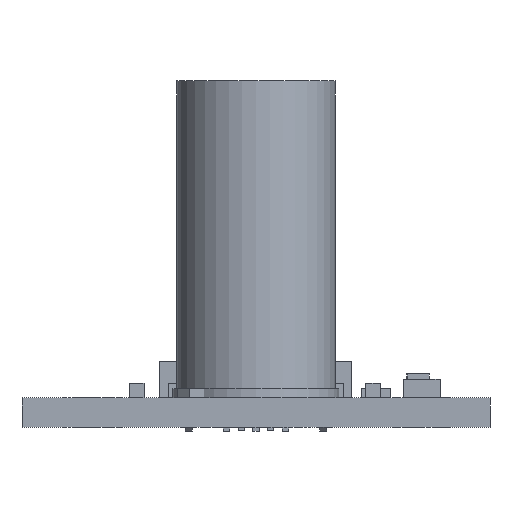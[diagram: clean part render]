
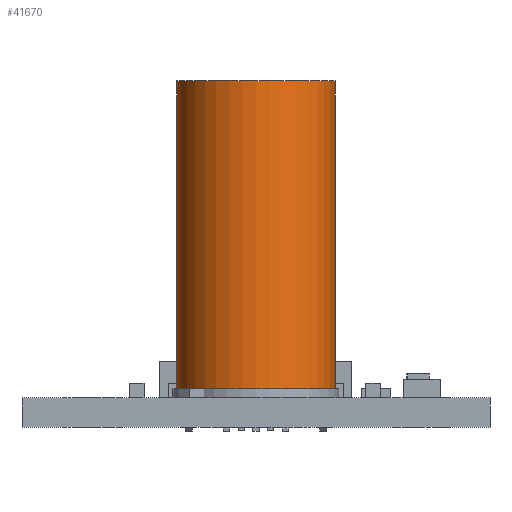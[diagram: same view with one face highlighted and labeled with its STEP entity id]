
A CAD part, front view. The second image highlights one B-rep face of the part: STEP entity #41670.
In plain terms, the highlighted cylindrical face has radius 4.3 mm (diameter 8.6 mm), a full revolution.
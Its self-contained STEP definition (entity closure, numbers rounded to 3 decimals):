
#41670 = ADVANCED_FACE('',(#41671),#41685,.T.);
#41671 = FACE_BOUND('',#41672,.T.);
#41672 = EDGE_LOOP('',(#41673,#41703,#41733,#41734));
#41673 = ORIENTED_EDGE('',*,*,#41674,.F.);
#41674 = EDGE_CURVE('',#41675,#41677,#41679,.T.);
#41675 = VERTEX_POINT('',#41676);
#41676 = CARTESIAN_POINT('',(4.3,0.,0.));
#41677 = VERTEX_POINT('',#41678);
#41678 = CARTESIAN_POINT('',(4.3,0.,17.2));
#41679 = SEAM_CURVE('',#41680,(#41684,#41696),.PCURVE_S1.);
#41680 = LINE('',#41681,#41682);
#41681 = CARTESIAN_POINT('',(4.3,0.,0.));
#41682 = VECTOR('',#41683,1.);
#41683 = DIRECTION('',(0.,0.,1.));
#41684 = PCURVE('',#41685,#41690);
#41685 = CYLINDRICAL_SURFACE('',#41686,4.3);
#41686 = AXIS2_PLACEMENT_3D('',#41687,#41688,#41689);
#41687 = CARTESIAN_POINT('',(0.,0.,0.));
#41688 = DIRECTION('',(0.,0.,-1.));
#41689 = DIRECTION('',(1.,0.,0.));
#41690 = DEFINITIONAL_REPRESENTATION('',(#41691),#41695);
#41691 = LINE('',#41692,#41693);
#41692 = CARTESIAN_POINT('',(6.283,0.));
#41693 = VECTOR('',#41694,1.);
#41694 = DIRECTION('',(0.,-1.));
#41695 = ( GEOMETRIC_REPRESENTATION_CONTEXT(2) 
PARAMETRIC_REPRESENTATION_CONTEXT() REPRESENTATION_CONTEXT('2D SPACE',''
  ) );
#41696 = PCURVE('',#41685,#41697);
#41697 = DEFINITIONAL_REPRESENTATION('',(#41698),#41702);
#41698 = LINE('',#41699,#41700);
#41699 = CARTESIAN_POINT('',(0.,0.));
#41700 = VECTOR('',#41701,1.);
#41701 = DIRECTION('',(0.,-1.));
#41702 = ( GEOMETRIC_REPRESENTATION_CONTEXT(2) 
PARAMETRIC_REPRESENTATION_CONTEXT() REPRESENTATION_CONTEXT('2D SPACE',''
  ) );
#41703 = ORIENTED_EDGE('',*,*,#41704,.T.);
#41704 = EDGE_CURVE('',#41675,#41675,#41705,.T.);
#41705 = SURFACE_CURVE('',#41706,(#41711,#41717),.PCURVE_S1.);
#41706 = CIRCLE('',#41707,4.3);
#41707 = AXIS2_PLACEMENT_3D('',#41708,#41709,#41710);
#41708 = CARTESIAN_POINT('',(0.,0.,0.));
#41709 = DIRECTION('',(0.,0.,1.));
#41710 = DIRECTION('',(1.,0.,0.));
#41711 = PCURVE('',#41685,#41712);
#41712 = DEFINITIONAL_REPRESENTATION('',(#41713),#41716);
#41713 = B_SPLINE_CURVE_WITH_KNOTS('',1,(#41714,#41715),.UNSPECIFIED.,
  .F.,.F.,(2,2),(0.,6.283),.PIECEWISE_BEZIER_KNOTS.);
#41714 = CARTESIAN_POINT('',(6.283,0.));
#41715 = CARTESIAN_POINT('',(0.,0.));
#41716 = ( GEOMETRIC_REPRESENTATION_CONTEXT(2) 
PARAMETRIC_REPRESENTATION_CONTEXT() REPRESENTATION_CONTEXT('2D SPACE',''
  ) );
#41717 = PCURVE('',#41718,#41723);
#41718 = PLANE('',#41719);
#41719 = AXIS2_PLACEMENT_3D('',#41720,#41721,#41722);
#41720 = CARTESIAN_POINT('',(4.3,0.,0.));
#41721 = DIRECTION('',(0.,0.,-1.));
#41722 = DIRECTION('',(-1.,0.,0.));
#41723 = DEFINITIONAL_REPRESENTATION('',(#41724),#41732);
#41724 = ( BOUNDED_CURVE() B_SPLINE_CURVE(2,(#41725,#41726,#41727,#41728
    ,#41729,#41730,#41731),.UNSPECIFIED.,.F.,.F.) 
B_SPLINE_CURVE_WITH_KNOTS((1,2,2,2,2,1),(-2.094,0.,
    2.094,4.189,6.283,8.378),
.UNSPECIFIED.) CURVE() GEOMETRIC_REPRESENTATION_ITEM() 
RATIONAL_B_SPLINE_CURVE((1.,0.5,1.,0.5,1.,0.5,1.)) REPRESENTATION_ITEM(
  '') );
#41725 = CARTESIAN_POINT('',(0.,0.));
#41726 = CARTESIAN_POINT('',(0.,7.448));
#41727 = CARTESIAN_POINT('',(6.45,3.724));
#41728 = CARTESIAN_POINT('',(12.9,0.));
#41729 = CARTESIAN_POINT('',(6.45,-3.724));
#41730 = CARTESIAN_POINT('',(0.,-7.448));
#41731 = CARTESIAN_POINT('',(0.,0.));
#41732 = ( GEOMETRIC_REPRESENTATION_CONTEXT(2) 
PARAMETRIC_REPRESENTATION_CONTEXT() REPRESENTATION_CONTEXT('2D SPACE',''
  ) );
#41733 = ORIENTED_EDGE('',*,*,#41674,.T.);
#41734 = ORIENTED_EDGE('',*,*,#41735,.F.);
#41735 = EDGE_CURVE('',#41677,#41677,#41736,.T.);
#41736 = SURFACE_CURVE('',#41737,(#41742,#41748),.PCURVE_S1.);
#41737 = CIRCLE('',#41738,4.3);
#41738 = AXIS2_PLACEMENT_3D('',#41739,#41740,#41741);
#41739 = CARTESIAN_POINT('',(0.,0.,17.2));
#41740 = DIRECTION('',(0.,0.,1.));
#41741 = DIRECTION('',(1.,0.,0.));
#41742 = PCURVE('',#41685,#41743);
#41743 = DEFINITIONAL_REPRESENTATION('',(#41744),#41747);
#41744 = B_SPLINE_CURVE_WITH_KNOTS('',1,(#41745,#41746),.UNSPECIFIED.,
  .F.,.F.,(2,2),(0.,6.283),.PIECEWISE_BEZIER_KNOTS.);
#41745 = CARTESIAN_POINT('',(6.283,-17.2));
#41746 = CARTESIAN_POINT('',(0.,-17.2));
#41747 = ( GEOMETRIC_REPRESENTATION_CONTEXT(2) 
PARAMETRIC_REPRESENTATION_CONTEXT() REPRESENTATION_CONTEXT('2D SPACE',''
  ) );
#41748 = PCURVE('',#41749,#41754);
#41749 = PLANE('',#41750);
#41750 = AXIS2_PLACEMENT_3D('',#41751,#41752,#41753);
#41751 = CARTESIAN_POINT('',(4.3,0.,17.2));
#41752 = DIRECTION('',(0.,0.,-1.));
#41753 = DIRECTION('',(-1.,0.,0.));
#41754 = DEFINITIONAL_REPRESENTATION('',(#41755),#41763);
#41755 = ( BOUNDED_CURVE() B_SPLINE_CURVE(2,(#41756,#41757,#41758,#41759
    ,#41760,#41761,#41762),.UNSPECIFIED.,.F.,.F.) 
B_SPLINE_CURVE_WITH_KNOTS((1,2,2,2,2,1),(-2.094,0.,
    2.094,4.189,6.283,8.378),
.UNSPECIFIED.) CURVE() GEOMETRIC_REPRESENTATION_ITEM() 
RATIONAL_B_SPLINE_CURVE((1.,0.5,1.,0.5,1.,0.5,1.)) REPRESENTATION_ITEM(
  '') );
#41756 = CARTESIAN_POINT('',(0.,0.));
#41757 = CARTESIAN_POINT('',(0.,7.448));
#41758 = CARTESIAN_POINT('',(6.45,3.724));
#41759 = CARTESIAN_POINT('',(12.9,0.));
#41760 = CARTESIAN_POINT('',(6.45,-3.724));
#41761 = CARTESIAN_POINT('',(0.,-7.448));
#41762 = CARTESIAN_POINT('',(0.,0.));
#41763 = ( GEOMETRIC_REPRESENTATION_CONTEXT(2) 
PARAMETRIC_REPRESENTATION_CONTEXT() REPRESENTATION_CONTEXT('2D SPACE',''
  ) );
